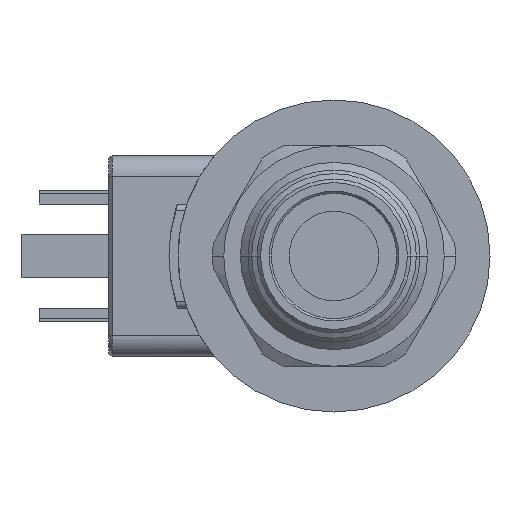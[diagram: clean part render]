
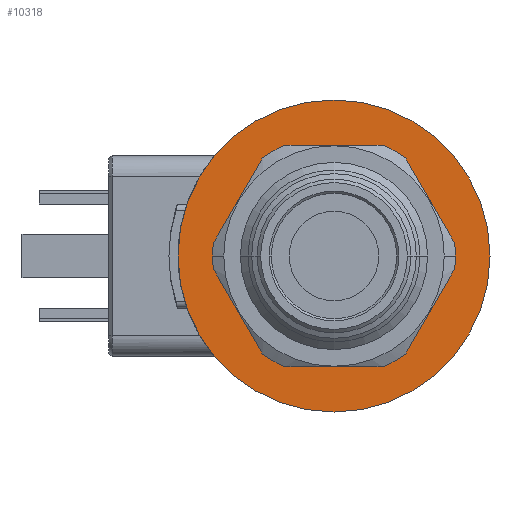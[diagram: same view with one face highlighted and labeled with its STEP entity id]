
A CAD part, left-side view. The second image highlights one B-rep face of the part: STEP entity #10318.
In plain terms, the highlighted planar face has unit normal (-1, 0, 0).
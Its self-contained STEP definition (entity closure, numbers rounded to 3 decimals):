
#8773=CARTESIAN_POINT('',(0.,0.,0.));
#8774=DIRECTION('',(-1.,0.,0.));
#8775=DIRECTION('',(0.,1.,0.));
#8776=AXIS2_PLACEMENT_3D('',#8773,#8774,#8775);
#8781=CARTESIAN_POINT('',(0.,0.,0.));
#8782=DIRECTION('',(1.,0.,0.));
#8783=DIRECTION('',(0.,1.,0.));
#8784=AXIS2_PLACEMENT_3D('',#8781,#8782,#8783);
#8789=CARTESIAN_POINT('',(0.,0.,0.));
#8790=DIRECTION('',(1.,0.,0.));
#8791=DIRECTION('',(0.,1.,0.));
#8792=AXIS2_PLACEMENT_3D('',#8789,#8790,#8791);
#8797=CARTESIAN_POINT('',(0.,0.,0.));
#8798=DIRECTION('',(1.,0.,0.));
#8799=DIRECTION('',(0.,-1.,0.));
#8800=AXIS2_PLACEMENT_3D('',#8797,#8798,#8799);
#10099=CARTESIAN_POINT('',(0.,-22.5,0.));
#10101=VERTEX_POINT('',#10099);
#10198=CARTESIAN_POINT('',(0.,22.5,0.));
#10199=VERTEX_POINT('',#10198);
#10289=CARTESIAN_POINT('',(0.,13.,0.));
#10290=CARTESIAN_POINT('',(0.,-13.,0.));
#10291=VERTEX_POINT('',#10289);
#10292=VERTEX_POINT('',#10290);
#10301=CARTESIAN_POINT('',(0.,0.,0.));
#10302=DIRECTION('',(1.,0.,0.));
#10303=DIRECTION('',(0.,-1.,0.));
#10304=AXIS2_PLACEMENT_3D('',#10301,#10302,#10303);
#10305=PLANE('',#10304);
#10307=ORIENTED_EDGE('',*,*,#10306,.F.);
#10309=ORIENTED_EDGE('',*,*,#10308,.T.);
#10310=EDGE_LOOP('',(#10307,#10309));
#10311=FACE_OUTER_BOUND('',#10310,.F.);
#10313=ORIENTED_EDGE('',*,*,#10312,.F.);
#10315=ORIENTED_EDGE('',*,*,#10314,.F.);
#10316=EDGE_LOOP('',(#10313,#10315));
#10317=FACE_BOUND('',#10316,.F.);
#8777=CIRCLE('',#8776,22.5);
#8785=CIRCLE('',#8784,22.5);
#8793=CIRCLE('',#8792,13.);
#8801=CIRCLE('',#8800,13.);
#10306=EDGE_CURVE('',#10199,#10101,#8777,.T.);
#10308=EDGE_CURVE('',#10199,#10101,#8785,.T.);
#10312=EDGE_CURVE('',#10291,#10292,#8793,.T.);
#10314=EDGE_CURVE('',#10292,#10291,#8801,.T.);
#10318=ADVANCED_FACE('',(#10311,#10317),#10305,.F.);
